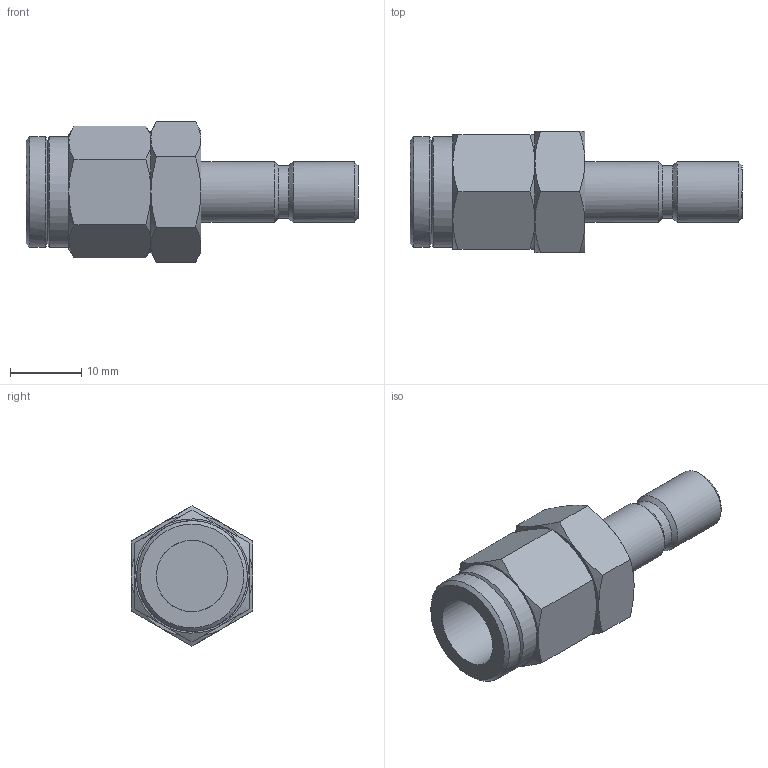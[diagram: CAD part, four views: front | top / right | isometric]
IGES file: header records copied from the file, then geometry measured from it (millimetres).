
Global section: file name: [09] H-LP (6.5×10),; native system: Autodesk Inventor 2014; preprocessor: unknown; author: kazuhiro.t; date: 20130805.152043; units: millimetre
Bounding box: 46.5 x 17 x 19.63 mm (x, y, z)
Volume: 5898.2 mm3; surface area: 2715.6 mm2
Topology: 1 solids, 1 shells, 54 faces, 117 edges, 69 vertices
Faces by surface type: bspline 54
